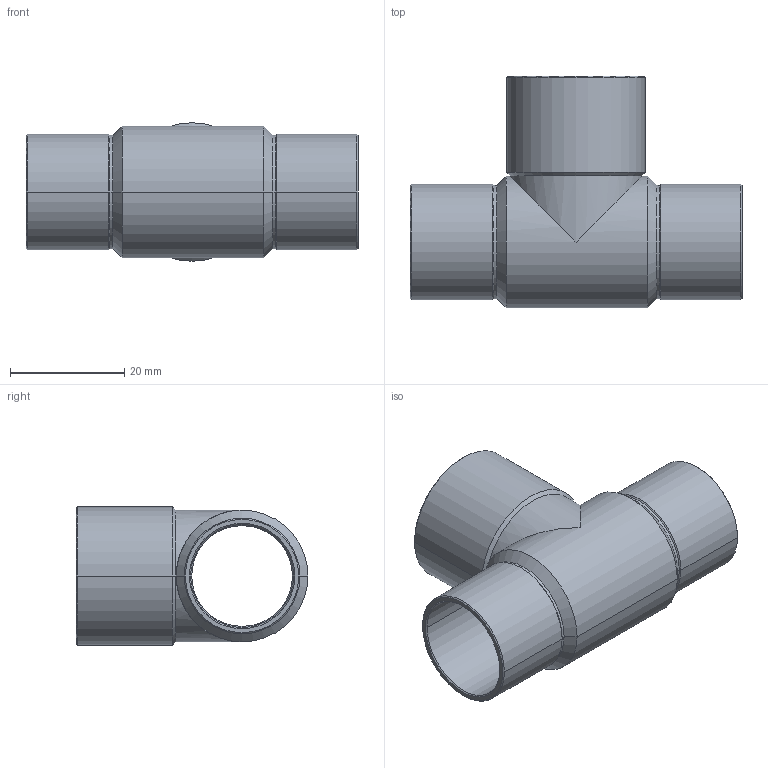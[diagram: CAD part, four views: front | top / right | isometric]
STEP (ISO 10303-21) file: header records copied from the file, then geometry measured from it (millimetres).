
FILE_DESCRIPTION((''),'2;1');
FILE_NAME('P:\Bouwmaten\z-maattekeningen 3D\5000\5130\5130182218.stp','2005-10-26T11:53:32',('Kris'),(''),'Autodesk Inventor 8','Autodesk Inventor 8','');
FILE_SCHEMA(('AUTOMOTIVE_DESIGN { 1 0 10303 214 1 1 1 1 }'));
Length unit declared in the file: millimetre
Products named in the file (1): 5130182218
Bounding box: 58 x 40.5 x 24.2 mm (x, y, z)
Volume: 5366.7 mm3; surface area: 9994.8 mm2
Topology: 1 solids, 1 shells, 63 faces, 134 edges, 72 vertices
Faces by surface type: cone 32, cylinder 28, plane 3
Entity records: 1695 total; most frequent: DIRECTION 334, CARTESIAN_POINT 270, ORIENTED_EDGE 268, AXIS2_PLACEMENT_3D 136, EDGE_CURVE 134, VERTEX_POINT 72, EDGE_LOOP 66, CIRCLE 64
